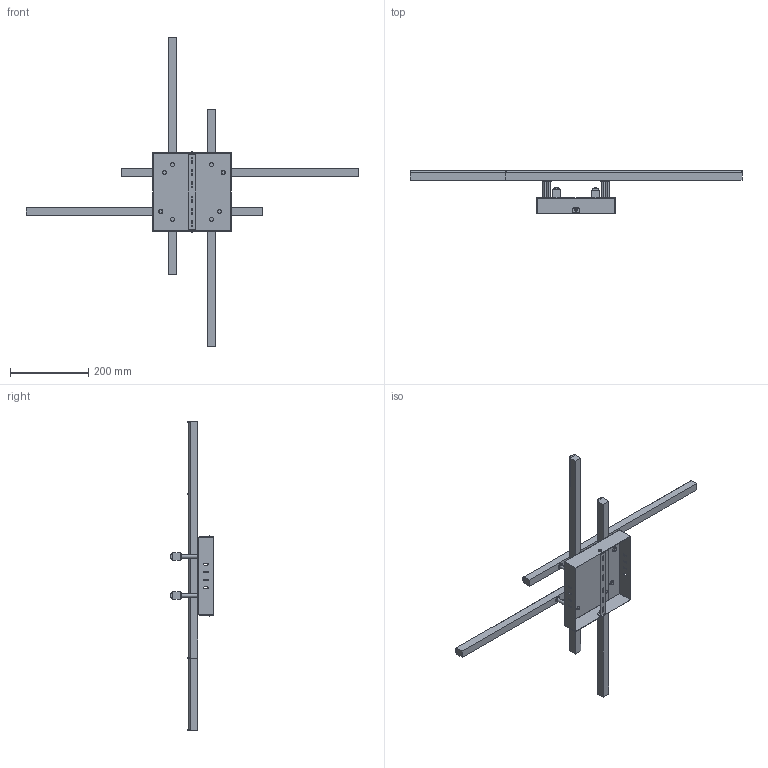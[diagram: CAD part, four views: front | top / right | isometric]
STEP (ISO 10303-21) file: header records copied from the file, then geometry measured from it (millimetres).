
FILE_DESCRIPTION(/* description */ (''),/* implementation_level */ '2;1');
FILE_NAME(/* name */ 'VT-7915.stp',/* time_stamp */ '2026-06-25T18:23:23+08:00',/* author */ (''),/* organization */ (''),/* preprocessor_version */ 'ST-DEVELOPER v16',/* originating_system */ 'SIEMENS PLM Software NX 10.0',/* authorisation */ '');
FILE_SCHEMA (('AP203_CONFIGURATION_CONTROLLED_3D_DESIGN_OF_MECHANICAL_PARTS_AND_ASSEMBLIES_MIM_LF { 1 0 10303 403 2 1 2}'));
Length unit declared in the file: millimetre
Products named in the file (1): 1443C955A613f
Bounding box: 850 x 110.67 x 790 mm (x, y, z)
Volume: 1202370.9 mm3; surface area: 454041.1 mm2
Topology: 16 solids, 16 shells, 419 faces, 1048 edges, 682 vertices
Faces by surface type: cylinder 202, plane 161, cone 26, torus 20, bspline 10
Entity records: 18417 total; most frequent: CARTESIAN_POINT 8577, ORIENTED_EDGE 2096, DIRECTION 1962, EDGE_CURVE 1048, AXIS2_PLACEMENT_3D 730, VERTEX_POINT 682, LINE 502, VECTOR 502
